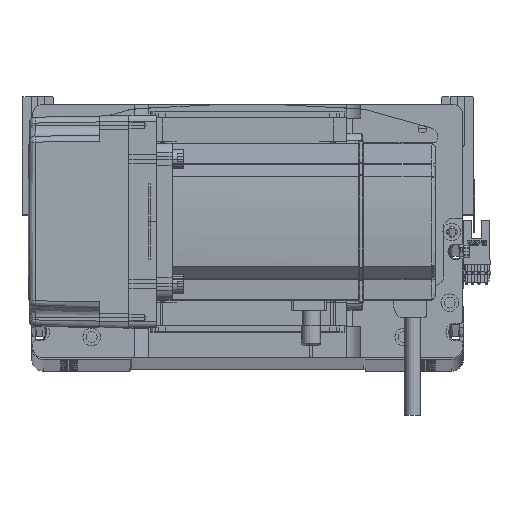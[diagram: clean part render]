
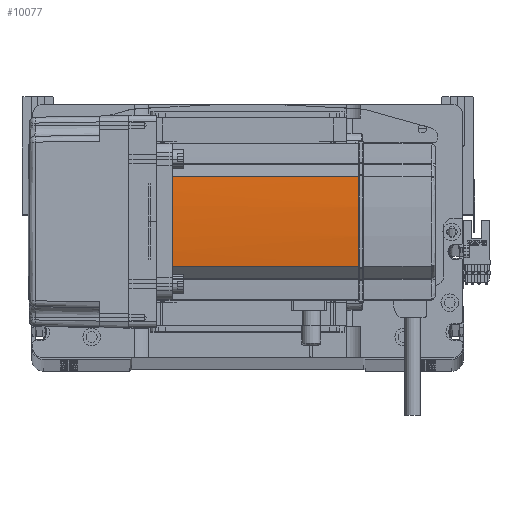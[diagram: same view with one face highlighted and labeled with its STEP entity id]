
A CAD part, top view. The second image highlights one B-rep face of the part: STEP entity #10077.
In plain terms, the highlighted cylindrical face has radius 270 mm (diameter 540 mm), a partial arc.
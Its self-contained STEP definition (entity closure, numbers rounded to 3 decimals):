
#290 = EDGE_CURVE ( 'NONE', #53691, #28747, #20583, .T. ) ;
#1749 = VECTOR ( 'NONE', #16221, 1000. ) ;
#3141 = AXIS2_PLACEMENT_3D ( 'NONE', #29135, #5378, #33229 ) ;
#3776 = EDGE_CURVE ( 'NONE', #11572, #8905, #24616, .T. ) ;
#3879 = CARTESIAN_POINT ( 'NONE',  ( 39.042, 22.724, 39. ) ) ;
#5378 = DIRECTION ( 'NONE',  ( 0., 0., -1. ) ) ;
#7791 = CARTESIAN_POINT ( 'NONE',  ( -230., 0., 134. ) ) ;
#7900 = AXIS2_PLACEMENT_3D ( 'NONE', #26000, #35281, #54033 ) ;
#8905 = VERTEX_POINT ( 'NONE', #35476 ) ;
#9180 = VERTEX_POINT ( 'NONE', #36843 ) ;
#9428 = FACE_OUTER_BOUND ( 'NONE', #35940, .T. ) ;
#10077 = ADVANCED_FACE ( 'NONE', ( #9428 ), #30639, .T. ) ;
#11572 = VERTEX_POINT ( 'NONE', #3879 ) ;
#12049 = DIRECTION ( 'NONE',  ( -1., 0., 0. ) ) ;
#12663 = VECTOR ( 'NONE', #43087, 1000. ) ;
#13121 = AXIS2_PLACEMENT_3D ( 'NONE', #7791, #21196, #12049 ) ;
#14410 = ORIENTED_EDGE ( 'NONE', *, *, #55914, .T. ) ;
#14771 = CARTESIAN_POINT ( 'NONE',  ( 39.042, -22.724, 134. ) ) ;
#16073 = EDGE_CURVE ( 'NONE', #53691, #31046, #16232, .T. ) ;
#16183 = LINE ( 'NONE', #49123, #1749 ) ;
#16221 = DIRECTION ( 'NONE',  ( 0., 0., 1. ) ) ;
#16232 = B_SPLINE_CURVE_WITH_KNOTS ( 'NONE', 3,
 ( #26918, #31573, #45366, #22218 ),
 .UNSPECIFIED., .F., .F.,
 ( 4, 4 ),
 ( 0., 1. ),
 .UNSPECIFIED. ) ;
#17775 = LINE ( 'NONE', #52684, #12663 ) ;
#17952 = ORIENTED_EDGE ( 'NONE', *, *, #42649, .T. ) ;
#18600 = ORIENTED_EDGE ( 'NONE', *, *, #290, .T. ) ;
#20241 = ORIENTED_EDGE ( 'NONE', *, *, #28032, .T. ) ;
#20583 = CIRCLE ( 'NONE', #3141, 270. ) ;
#21196 = DIRECTION ( 'NONE',  ( 0., 0., -1. ) ) ;
#22218 = CARTESIAN_POINT ( 'NONE',  ( 40., 0.127, 134. ) ) ;
#24616 = CIRCLE ( 'NONE', #7900, 270. ) ;
#26000 = CARTESIAN_POINT ( 'NONE',  ( -230., 0., 39. ) ) ;
#26918 = CARTESIAN_POINT ( 'NONE',  ( 40., -0.127, 134. ) ) ;
#28032 = EDGE_CURVE ( 'NONE', #11572, #9180, #16183, .T. ) ;
#28747 = VERTEX_POINT ( 'NONE', #14771 ) ;
#29135 = CARTESIAN_POINT ( 'NONE',  ( -230., 0., 134. ) ) ;
#30639 = CYLINDRICAL_SURFACE ( 'NONE', #53407, 270. ) ;
#31046 = VERTEX_POINT ( 'NONE', #45853 ) ;
#31108 = DIRECTION ( 'NONE',  ( 0., 0., -1. ) ) ;
#31573 = CARTESIAN_POINT ( 'NONE',  ( 40., -0.042, 134. ) ) ;
#33229 = DIRECTION ( 'NONE',  ( -1., 0., 0. ) ) ;
#35281 = DIRECTION ( 'NONE',  ( 0., 0., -1. ) ) ;
#35476 = CARTESIAN_POINT ( 'NONE',  ( 39.042, -22.724, 39. ) ) ;
#35727 = CARTESIAN_POINT ( 'NONE',  ( -230., 0., 58. ) ) ;
#35940 = EDGE_LOOP ( 'NONE', ( #17952, #47926, #20241, #14410, #37608, #18600 ) ) ;
#36843 = CARTESIAN_POINT ( 'NONE',  ( 39.042, 22.724, 134. ) ) ;
#37608 = ORIENTED_EDGE ( 'NONE', *, *, #16073, .F. ) ;
#42649 = EDGE_CURVE ( 'NONE', #28747, #8905, #17775, .T. ) ;
#43087 = DIRECTION ( 'NONE',  ( 0., 0., -1. ) ) ;
#45366 = CARTESIAN_POINT ( 'NONE',  ( 40., 0.042, 134. ) ) ;
#45853 = CARTESIAN_POINT ( 'NONE',  ( 40., 0.127, 134. ) ) ;
#46480 = CARTESIAN_POINT ( 'NONE',  ( 40., -0.127, 134. ) ) ;
#47926 = ORIENTED_EDGE ( 'NONE', *, *, #3776, .F. ) ;
#49123 = CARTESIAN_POINT ( 'NONE',  ( 39.042, 22.724, 58. ) ) ;
#52684 = CARTESIAN_POINT ( 'NONE',  ( 39.042, -22.724, 58. ) ) ;
#53157 = CIRCLE ( 'NONE', #13121, 270. ) ;
#53407 = AXIS2_PLACEMENT_3D ( 'NONE', #35727, #31108, #59712 ) ;
#53691 = VERTEX_POINT ( 'NONE', #46480 ) ;
#54033 = DIRECTION ( 'NONE',  ( -1., 0., 0. ) ) ;
#55914 = EDGE_CURVE ( 'NONE', #9180, #31046, #53157, .T. ) ;
#59712 = DIRECTION ( 'NONE',  ( -1., 0., 0. ) ) ;
